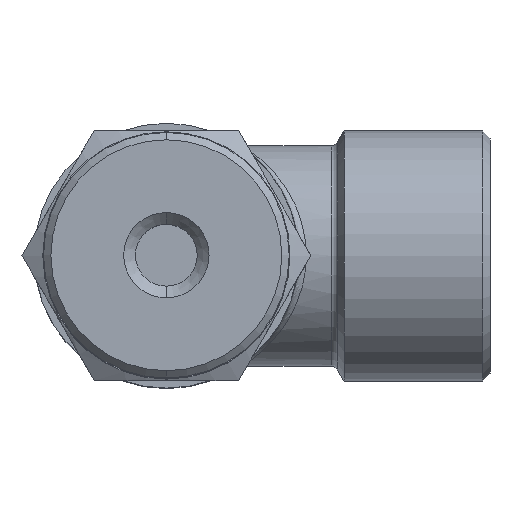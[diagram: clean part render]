
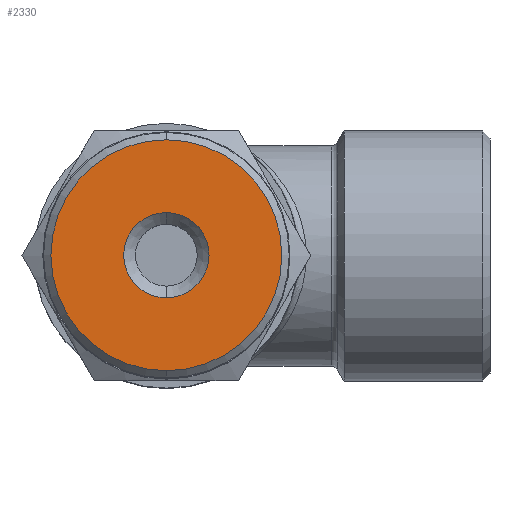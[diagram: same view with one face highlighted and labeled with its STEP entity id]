
A CAD part, top view. The second image highlights one B-rep face of the part: STEP entity #2330.
In plain terms, the highlighted planar face has unit normal (0, 0, 1).
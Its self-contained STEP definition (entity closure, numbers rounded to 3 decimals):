
#2330=ADVANCED_FACE('', (#2340,#2350), #2360, .T.);
#10810=AXIS2_PLACEMENT_3D('Ax2Pl3d', #10820, #10830, #10840);
#10850=AXIS2_PLACEMENT_3D('Ax2Pl3d', #10860, #10870, #10880);
#10890=AXIS2_PLACEMENT_3D('Ax2Pl3d', #10900, #10910, #10920);
#10930=AXIS2_PLACEMENT_3D('Ax2Pl3d', #10940, #10950, #10960);
#10970=AXIS2_PLACEMENT_3D('Ax2Pl3d', #10980, #10990, #11000);
#10820=CARTESIAN_POINT('HicPkt', (21.75,16.972,
57.078));
#38570=CARTESIAN_POINT('', (21.75,24.822,57.078));
#38580=CARTESIAN_POINT('', (21.75,9.122,57.078));
#10860=CARTESIAN_POINT('HicPkt', (29.6,16.972,
57.078));
#10900=CARTESIAN_POINT('HicPkt', (21.75,16.972,
57.078));
#10940=CARTESIAN_POINT('HicPkt', (21.75,16.972,
57.078));
#38610=CARTESIAN_POINT('', (21.75,14.072,57.078));
#38620=CARTESIAN_POINT('', (21.75,19.872,57.078))
;
#10980=CARTESIAN_POINT('HicPkt', (21.75,16.972,
57.078));
#40790=CIRCLE('Circle', #10810, 7.85);
#40800=CIRCLE('Circle', #10890, 7.85);
#40810=CIRCLE('Circle', #10930, 2.9);
#40820=CIRCLE('Circle', #10970, 2.9);
#10830=DIRECTION('Axis', (0.,0.,-1.));
#10840=DIRECTION('RefDirection', (-1.,-0.,0.));
#10870=DIRECTION('Axis', (0.,0.,1.));
#10880=DIRECTION('RefDirection', (1.,0.,-0.));
#10910=DIRECTION('Axis', (0.,0.,1.));
#10920=DIRECTION('RefDirection', (1.,0.,-0.));
#10950=DIRECTION('Axis', (0.,0.,1.));
#10960=DIRECTION('RefDirection', (1.,0.,-0.));
#10990=DIRECTION('Axis', (0.,0.,1.));
#11000=DIRECTION('RefDirection', (1.,0.,-0.));
#54450=EDGE_CURVE('', #54460, #54470, #40790, .T.);
#54520=EDGE_CURVE('', #54460, #54470, #40800, .T.);
#54530=EDGE_CURVE('', #54540, #54550, #40810, .T.);
#54560=EDGE_CURVE('', #54550, #54540, #40820, .T.);
#61420=EDGE_LOOP('Edge_loop', (#61430,#61440));
#61450=EDGE_LOOP('Edge_loop', (#61460,#61470));
#2350=FACE_BOUND('', #61450, .T.);
#2340=FACE_OUTER_BOUND('Face_outer_bound', #61420, .T.);
#61430=ORIENTED_EDGE('', *, *, #54450, .F.);
#61440=ORIENTED_EDGE('', *, *, #54520, .T.);
#61460=ORIENTED_EDGE('', *, *, #54530, .F.);
#61470=ORIENTED_EDGE('', *, *, #54560, .F.);
#2360=PLANE('Plane', #10850);
#54460=VERTEX_POINT('', #38570);
#54470=VERTEX_POINT('', #38580);
#54540=VERTEX_POINT('', #38610);
#54550=VERTEX_POINT('', #38620);
